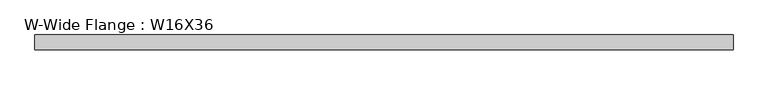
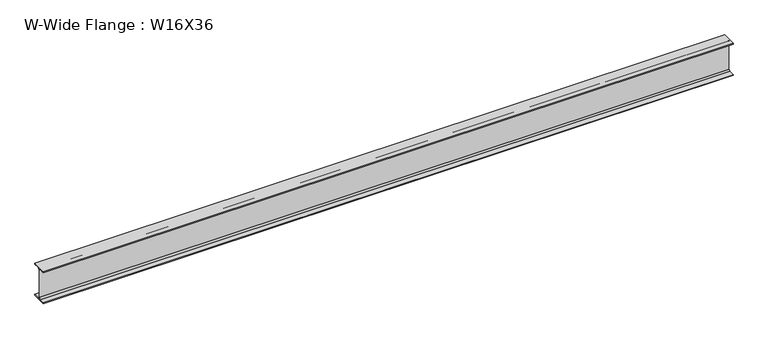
"""IFC4 building model written with IfcOpenShell, lengths in millimetres: beam geometry, W-Wide Flange : W16X36."""

from ifc_helpers import new_model, si_unit, point, frame, frame_2d, origin, place, context, project, spatial, polyline, circle_curve, trimmed, segment, composite_curve, outline, extrude, source, transform, mapped, element, save


def w_wide_flange_w16x36_73efc18d(model_context):
    return source(origin(), model_context, "Body", "SweptSolid", [
        extrude(outline(composite_curve([segment(polyline([(88.773, -191.008), (88.773, -201.93), (-88.773, -201.93), (-88.773, -191.008), (-21.3995, -191.008)]), True, "CONTINUOUS"), segment(trimmed(circle_curve(frame_2d((-21.3995, -173.355)), 17.653), [point((-21.3995, -191.008))], [point((-3.7465, -173.355))], True, "CARTESIAN"), True, "CONTINUOUS"), segment(polyline([(-3.7465, -173.355), (-3.7465, 173.355)]), True, "CONTINUOUS"), segment(trimmed(circle_curve(frame_2d((-21.3995, 173.355)), 17.653), [point((-3.7465, 173.355))], [point((-21.3995, 191.008))], True, "CARTESIAN"), True, "CONTINUOUS"), segment(polyline([(-21.3995, 191.008), (-88.773, 191.008), (-88.773, 201.93), (88.773, 201.93), (88.773, 191.008), (21.3995, 191.008)]), True, "CONTINUOUS"), segment(trimmed(circle_curve(frame_2d((21.3995, 173.355)), 17.653), [point((21.3995, 191.008))], [point((3.7465, 173.355))], True, "CARTESIAN"), True, "CONTINUOUS"), segment(polyline([(3.7465, 173.355), (3.7465, -173.355)]), True, "CONTINUOUS"), segment(trimmed(circle_curve(frame_2d((21.3995, -173.355)), 17.653), [point((3.7465, -173.355))], [point((21.3995, -191.008))], True, "CARTESIAN"), True, "CONTINUOUS"), segment(polyline([(21.3995, -191.008), (88.773, -191.008)]), True, "CONTINUOUS")], self_intersect=False)), frame((-3886.2, 0.0, 0.0), z_axis=(1.0, 0.0, 0.0), x_axis=(0.0, 1.0, 0.0)), (0.0, 0.0, 1.0), 8229.6),
    ])


if __name__ == "__main__":
    model = new_model("IFC4")
    model_context = context("Model", 3, world=origin())
    ifc_project = project(units=[si_unit("LENGTHUNIT", "METRE", prefix="MILLI")], contexts=[model_context])
    site = spatial("IfcSite", under=ifc_project)
    building = spatial("IfcBuilding", under=site)
    placement = place(None, origin())
    w_wide_flange_w16x36_shape = w_wide_flange_w16x36_73efc18d(model_context)
    element("IfcBeam", 1, ObjectType="W-Wide Flange : W16X36", at=placement, inside=building, context=model_context, shape_type="MappedRepresentation", body=[
        mapped(w_wide_flange_w16x36_shape, transform((0.0, 0.0, 0.0), x_axis=(1.0, 0.0, 0.0), y_axis=(0.0, 1.0, 0.0), z_axis=(0.0, 0.0, 1.0))),
    ])
    save(model, "model.ifc")
